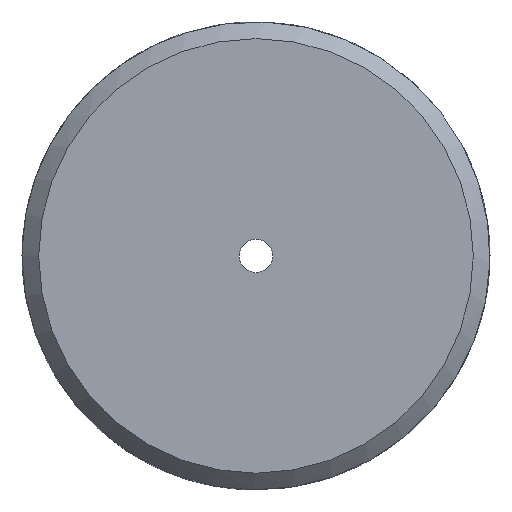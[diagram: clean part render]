
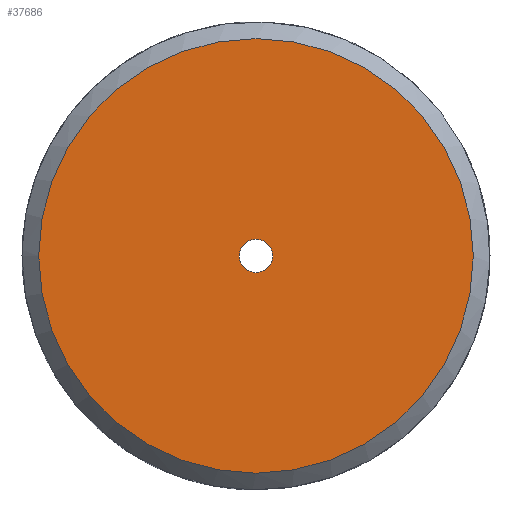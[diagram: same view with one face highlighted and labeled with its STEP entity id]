
A CAD part, left-side view. The second image highlights one B-rep face of the part: STEP entity #37686.
In plain terms, the highlighted planar face has unit normal (-1, 0, 0).
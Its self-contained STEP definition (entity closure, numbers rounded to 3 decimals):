
#10737=PLANE('',#37206);
#13846=ORIENTED_EDGE('',*,*,#15980,.F.);
#13847=ORIENTED_EDGE('',*,*,#15979,.F.);
#14194=CIRCLE('',#37205,0.5);
#14195=CIRCLE('',#37207,6.5);
#14908=VERTEX_POINT('',#36511);
#14909=VERTEX_POINT('',#36514);
#15979=EDGE_CURVE('',#14908,#14908,#14194,.T.);
#15980=EDGE_CURVE('',#14909,#14909,#14195,.T.);
#16344=EDGE_LOOP('',(#13846));
#16345=EDGE_LOOP('',(#13847));
#16711=FACE_BOUND('',#16344,.T.);
#16712=FACE_BOUND('',#16345,.T.);
#18087=DIRECTION('',(-1.,0.,0.));
#18088=DIRECTION('',(0.,0.,0.5));
#18089=DIRECTION('',(-1.,0.,0.));
#18090=DIRECTION('',(0.,1.,0.));
#18091=DIRECTION('',(1.,0.,0.));
#18092=DIRECTION('',(0.,0.,-6.5));
#36511=CARTESIAN_POINT('',(44.231,165.515,0.5));
#36512=CARTESIAN_POINT('',(44.231,165.515,0.));
#36513=CARTESIAN_POINT('',(44.231,165.515,-6.5));
#36514=CARTESIAN_POINT('',(44.231,165.515,-6.5));
#36515=CARTESIAN_POINT('',(44.231,165.515,0.));
#37205=AXIS2_PLACEMENT_3D('',#36512,#18087,#18088);
#37206=AXIS2_PLACEMENT_3D('',#36513,#18089,#18090);
#37207=AXIS2_PLACEMENT_3D('',#36515,#18091,#18092);
#37686=ADVANCED_FACE('',(#16711,#16712),#10737,.T.);
